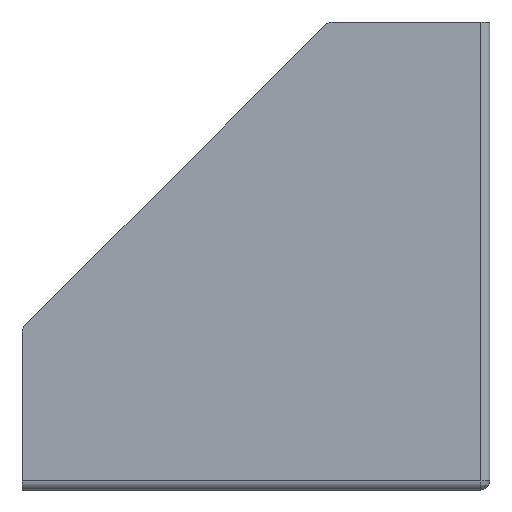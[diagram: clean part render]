
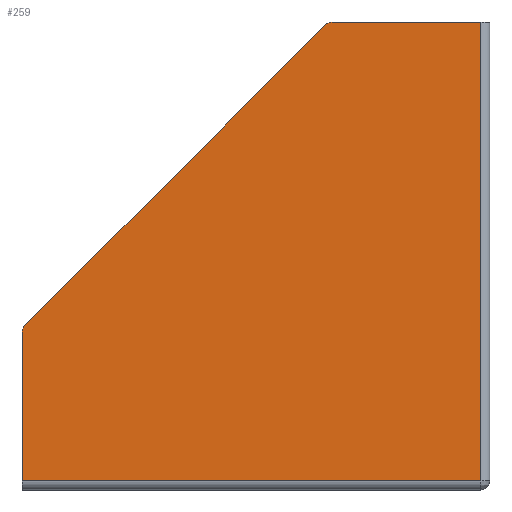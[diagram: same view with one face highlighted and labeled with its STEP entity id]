
A CAD part, left-side view. The second image highlights one B-rep face of the part: STEP entity #259.
In plain terms, the highlighted planar face has unit normal (-1, 0, 0).
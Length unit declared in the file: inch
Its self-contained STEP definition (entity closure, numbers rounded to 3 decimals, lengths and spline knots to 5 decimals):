
#29 = FACE_OUTER_BOUND ( 'NONE', #330, .T. ) ;
#54 = CARTESIAN_POINT ( 'NONE',  ( 0., 6.375, -6.3125 ) ) ;
#59 = ORIENTED_EDGE ( 'NONE', *, *, #568, .F. ) ;
#73 = CARTESIAN_POINT ( 'NONE',  ( 0., 6.375, -6.1875 ) ) ;
#89 = VECTOR ( 'NONE', #327, 39.37008 ) ;
#95 = EDGE_CURVE ( 'NONE', #529, #485, #449, .T. ) ;
#112 = CARTESIAN_POINT ( 'NONE',  ( 0., 6.25, -4.16178 ) ) ;
#120 = ORIENTED_EDGE ( 'NONE', *, *, #489, .F. ) ;
#122 = CARTESIAN_POINT ( 'NONE',  ( 0., 2.23911, 0.02589 ) ) ;
#145 = CARTESIAN_POINT ( 'NONE',  ( 0., 6.375, -6.3125 ) ) ;
#148 = ORIENTED_EDGE ( 'NONE', *, *, #95, .F. ) ;
#170 = VECTOR ( 'NONE', #590, 39.37008 ) ;
#173 = ORIENTED_EDGE ( 'NONE', *, *, #410, .F. ) ;
#187 = DIRECTION ( 'NONE',  ( 0., 0., 1. ) ) ;
#199 = CARTESIAN_POINT ( 'NONE',  ( 0., 6.33839, -4.07339 ) ) ;
#226 = EDGE_CURVE ( 'NONE', #495, #526, #313, .T. ) ;
#259 = ADVANCED_FACE ( 'NONE', ( #29 ), #562, .F. ) ;
#277 = DIRECTION ( 'NONE',  ( 1., 0., 0. ) ) ;
#288 = DIRECTION ( 'NONE',  ( 0., -1., 0. ) ) ;
#296 = LINE ( 'NONE', #54, #640 ) ;
#313 = LINE ( 'NONE', #836, #725 ) ;
#323 = CARTESIAN_POINT ( 'NONE',  ( 0., 0.125, -6.3125 ) ) ;
#327 = DIRECTION ( 'NONE',  ( 0., -0.707, 0.707 ) ) ;
#330 = EDGE_LOOP ( 'NONE', ( #173, #503, #59, #148, #760, #120, #393 ) ) ;
#350 = DIRECTION ( 'NONE',  ( 0., 1., 0. ) ) ;
#393 = ORIENTED_EDGE ( 'NONE', *, *, #588, .F. ) ;
#408 = CIRCLE ( 'NONE', #498, 0.125 ) ;
#410 = EDGE_CURVE ( 'NONE', #526, #615, #876, .T. ) ;
#416 = CARTESIAN_POINT ( 'NONE',  ( 0., 6.375, -6.1875 ) ) ;
#428 = DIRECTION ( 'NONE',  ( 0., 0., -1. ) ) ;
#449 = LINE ( 'NONE', #742, #89 ) ;
#460 = AXIS2_PLACEMENT_3D ( 'NONE', #145, #839, #428 ) ;
#482 = CIRCLE ( 'NONE', #582, 0.125 ) ;
#485 = VERTEX_POINT ( 'NONE', #122 ) ;
#489 = EDGE_CURVE ( 'NONE', #629, #781, #296, .T. ) ;
#495 = VERTEX_POINT ( 'NONE', #678 ) ;
#498 = AXIS2_PLACEMENT_3D ( 'NONE', #693, #277, #764 ) ;
#503 = ORIENTED_EDGE ( 'NONE', *, *, #226, .F. ) ;
#526 = VERTEX_POINT ( 'NONE', #536 ) ;
#529 = VERTEX_POINT ( 'NONE', #199 ) ;
#536 = CARTESIAN_POINT ( 'NONE',  ( 0., 0.125, 0.0625 ) ) ;
#562 = PLANE ( 'NONE',  #460 ) ;
#568 = EDGE_CURVE ( 'NONE', #485, #495, #408, .T. ) ;
#571 = VECTOR ( 'NONE', #350, 39.37008 ) ;
#582 = AXIS2_PLACEMENT_3D ( 'NONE', #112, #599, #187 ) ;
#585 = LINE ( 'NONE', #416, #571 ) ;
#588 = EDGE_CURVE ( 'NONE', #615, #629, #585, .T. ) ;
#590 = DIRECTION ( 'NONE',  ( 0., 0., -1. ) ) ;
#599 = DIRECTION ( 'NONE',  ( 1., 0., 0. ) ) ;
#615 = VERTEX_POINT ( 'NONE', #698 ) ;
#629 = VERTEX_POINT ( 'NONE', #73 ) ;
#640 = VECTOR ( 'NONE', #672, 39.37008 ) ;
#666 = CARTESIAN_POINT ( 'NONE',  ( 0., 6.375, -4.16178 ) ) ;
#672 = DIRECTION ( 'NONE',  ( 0., 0., 1. ) ) ;
#678 = CARTESIAN_POINT ( 'NONE',  ( 0., 2.15072, 0.0625 ) ) ;
#693 = CARTESIAN_POINT ( 'NONE',  ( 0., 2.15072, -0.0625 ) ) ;
#698 = CARTESIAN_POINT ( 'NONE',  ( 0., 0.125, -6.1875 ) ) ;
#719 = EDGE_CURVE ( 'NONE', #781, #529, #482, .T. ) ;
#725 = VECTOR ( 'NONE', #288, 39.37008 ) ;
#742 = CARTESIAN_POINT ( 'NONE',  ( 0., 6.33839, -4.07339 ) ) ;
#760 = ORIENTED_EDGE ( 'NONE', *, *, #719, .F. ) ;
#764 = DIRECTION ( 'NONE',  ( 0., 0., 1. ) ) ;
#781 = VERTEX_POINT ( 'NONE', #666 ) ;
#836 = CARTESIAN_POINT ( 'NONE',  ( 0., 6.375, 0.0625 ) ) ;
#839 = DIRECTION ( 'NONE',  ( 1., 0., 0. ) ) ;
#876 = LINE ( 'NONE', #323, #170 ) ;
